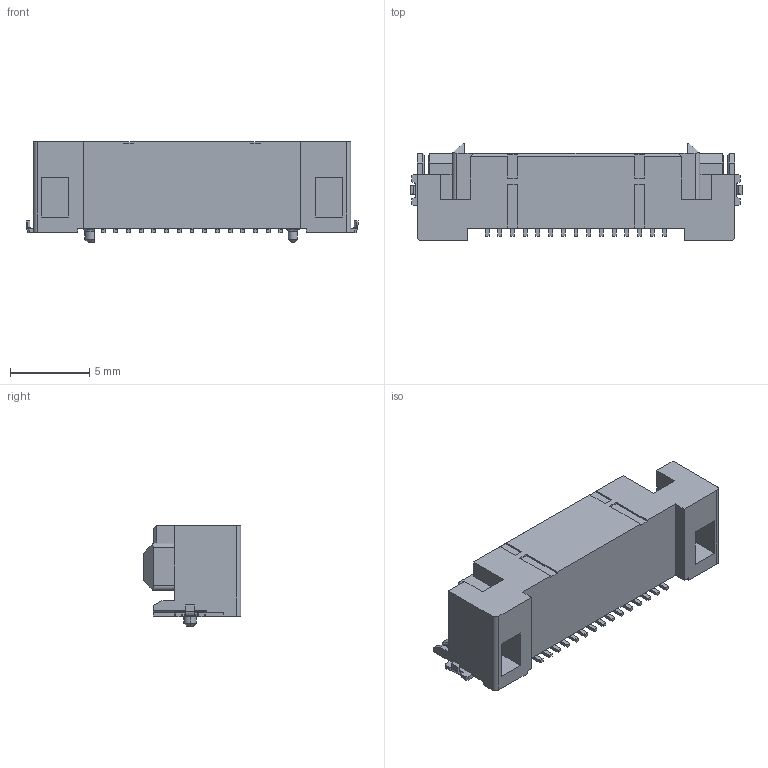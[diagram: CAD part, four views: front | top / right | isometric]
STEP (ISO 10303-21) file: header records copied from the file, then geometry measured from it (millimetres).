
FILE_DESCRIPTION (( 'STEP AP214' ), '1' );
FILE_NAME ('105600030200.STEP', '2015-10-21T07:45:53', ( '' ), ( '' ), 'SwSTEP 2.0', 'SolidWorks 2014', '' );
FILE_SCHEMA (( 'AUTOMOTIVE_DESIGN' ));
Length unit declared in the file: millimetre
Products named in the file (1): 105600030200
Bounding box: 20.9 x 6.15 x 6.35 mm (x, y, z)
Volume: 370.1 mm3; surface area: 747.6 mm2
Topology: 1 solids, 1 shells, 510 faces, 1384 edges, 911 vertices
Faces by surface type: plane 375, cylinder 127, bspline 4, cone 4
Entity records: 16159 total; most frequent: CARTESIAN_POINT 3153, ORIENTED_EDGE 2768, DIRECTION 2596, EDGE_CURVE 1384, VECTOR 1070, LINE 1070, VERTEX_POINT 911, AXIS2_PLACEMENT_3D 763
